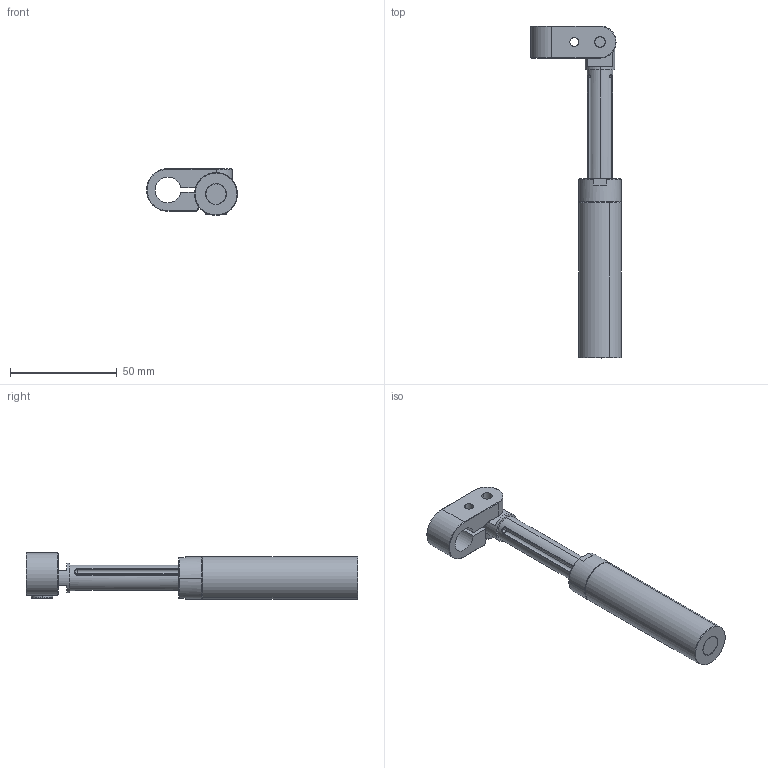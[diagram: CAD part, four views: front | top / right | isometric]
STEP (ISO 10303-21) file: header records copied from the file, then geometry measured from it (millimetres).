
FILE_DESCRIPTION(/* description */ (''),/* implementation_level */ '2;1');
FILE_NAME(/* name */ '8.Y00331-GSR2051-12.stp',/* time_stamp */ '2023-03-09T10:39:39+08:00',/* author */ (''),/* organization */ (''),/* preprocessor_version */ 'ST-DEVELOPER v16',/* originating_system */ 'SIEMENS PLM Software NX 10.0',/* authorisation */ '');
FILE_SCHEMA (('AUTOMOTIVE_DESIGN { 1 0 10303 214 3 1 1 1 }'));
Length unit declared in the file: millimetre
Products named in the file (1): _model116
Bounding box: 42.5 x 155.5 x 21.9 mm (x, y, z)
Volume: 37645.6 mm3; surface area: 15889.5 mm2
Topology: 1 solids, 9 shells, 232 faces, 563 edges, 353 vertices
Faces by surface type: cylinder 84, plane 61, cone 61, sphere 14, bspline 8, torus 4
Entity records: 11795 total; most frequent: CARTESIAN_POINT 5391, DIRECTION 1183, ORIENTED_EDGE 1122, EDGE_CURVE 561, AXIS2_PLACEMENT_3D 474, VERTEX_POINT 353, EDGE_LOOP 252, CIRCLE 249
